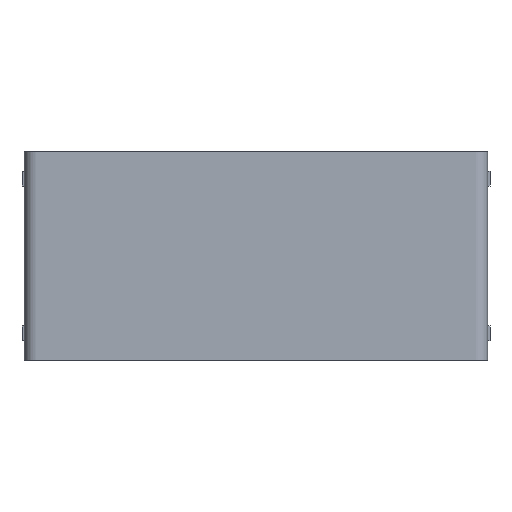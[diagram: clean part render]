
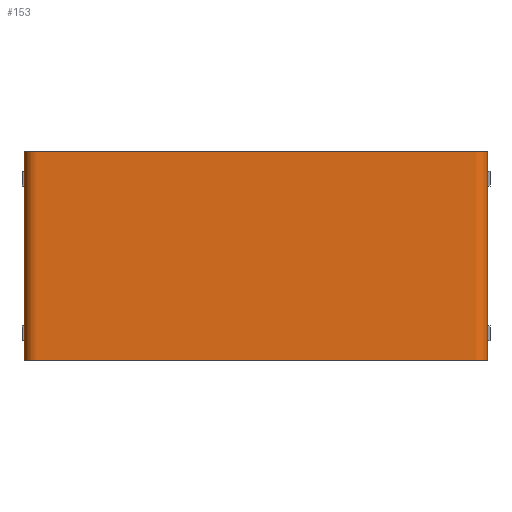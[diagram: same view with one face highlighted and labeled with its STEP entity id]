
A CAD part, top view. The second image highlights one B-rep face of the part: STEP entity #153.
In plain terms, the highlighted free-form (B-spline) face has degree [2, 1] with [9, 2] control points.
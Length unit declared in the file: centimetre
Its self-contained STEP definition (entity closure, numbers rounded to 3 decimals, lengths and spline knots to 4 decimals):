
#153=ADVANCED_FACE($,(#381),#2520,.T.);
#381=FACE_OUTER_BOUND($,#609,.T.);
#609=EDGE_LOOP($,(#955,#956,#957,#958));
#955=ORIENTED_EDGE($,*,*,#1729,.T.);
#956=ORIENTED_EDGE($,*,*,#1725,.T.);
#957=ORIENTED_EDGE($,*,*,#1719,.F.);
#958=ORIENTED_EDGE($,*,*,#1721,.F.);
#1719=EDGE_CURVE($,#2116,#2117,#2617,.T.);
#1721=EDGE_CURVE($,#2118,#2116,#2910,.T.);
#1725=EDGE_CURVE($,#2122,#2117,#2912,.T.);
#1729=EDGE_CURVE($,#2118,#2122,#2623,.T.);
#2116=VERTEX_POINT($,#4153);
#2117=VERTEX_POINT($,#4154);
#2118=VERTEX_POINT($,#4155);
#2122=VERTEX_POINT($,#4159);
#2520=(
BOUNDED_SURFACE()
B_SPLINE_SURFACE(2,1,((#4109,#4110),(#4111,#4112),(#4113,#4114),(#4115,#4116),
(#4117,#4118),(#4119,#4120),(#4121,#4122),(#4123,#4124),(#4125,#4126)),.UNSPECIFIED.,
.F.,.F.,.F.)
B_SPLINE_SURFACE_WITH_KNOTS((3,2,2,2,3),(2,2),(-244.4058,-240.1646,
-145.5646,-141.3235,-129.0235),(0.,45.),.UNSPECIFIED.)
GEOMETRIC_REPRESENTATION_ITEM()
RATIONAL_B_SPLINE_SURFACE(((1.,1.),(0.707,0.707),
(1.,1.),(1.,1.),(1.,1.),(0.707,0.707),(1.,1.),(1.,
1.),(1.,1.)))
REPRESENTATION_ITEM($)
SURFACE()
);
#2617=B_SPLINE_CURVE_WITH_KNOTS($,1,(#4048,#4049),.UNSPECIFIED.,.F.,.F.,
(2,2),(0.,45.),.UNSPECIFIED.);
#2623=B_SPLINE_CURVE_WITH_KNOTS($,1,(#4100,#4101),.UNSPECIFIED.,.F.,.F.,
(2,2),(0.,45.),.UNSPECIFIED.);
#2910=(
BOUNDED_CURVE()
B_SPLINE_CURVE(2,(#4052,#4053,#4054,#4055,#4056,#4057,#4058,#4059,#4060),
.UNSPECIFIED.,.F.,.F.)
B_SPLINE_CURVE_WITH_KNOTS((3,2,2,2,3),(129.0235,141.3235,
145.5646,240.1646,244.4058),.UNSPECIFIED.)
CURVE()
GEOMETRIC_REPRESENTATION_ITEM()
RATIONAL_B_SPLINE_CURVE((1.,1.,1.,0.707,1.,1.,1.,0.707,
1.))
REPRESENTATION_ITEM($)
);
#2912=(
BOUNDED_CURVE()
B_SPLINE_CURVE(2,(#4076,#4077,#4078,#4079,#4080,#4081,#4082,#4083,#4084),
.UNSPECIFIED.,.F.,.F.)
B_SPLINE_CURVE_WITH_KNOTS((3,2,2,2,3),(129.0235,141.3235,
145.5646,240.1646,244.4058),.UNSPECIFIED.)
CURVE()
GEOMETRIC_REPRESENTATION_ITEM()
RATIONAL_B_SPLINE_CURVE((1.,1.,1.,0.707,1.,1.,1.,0.707,
1.))
REPRESENTATION_ITEM($)
);
#4048=CARTESIAN_POINT($,(1.,0.,39.3));
#4049=CARTESIAN_POINT($,(1.,45.,39.3));
#4052=CARTESIAN_POINT($,(101.,0.,27.));
#4053=CARTESIAN_POINT($,(101.,0.,33.15));
#4054=CARTESIAN_POINT($,(101.,0.,39.3));
#4055=CARTESIAN_POINT($,(101.,0.,42.));
#4056=CARTESIAN_POINT($,(98.3,0.,42.));
#4057=CARTESIAN_POINT($,(51.,0.,42.));
#4058=CARTESIAN_POINT($,(3.7,0.,42.));
#4059=CARTESIAN_POINT($,(1.,0.,42.));
#4060=CARTESIAN_POINT($,(1.,0.,39.3));
#4076=CARTESIAN_POINT($,(101.,45.,27.));
#4077=CARTESIAN_POINT($,(101.,45.,33.15));
#4078=CARTESIAN_POINT($,(101.,45.,39.3));
#4079=CARTESIAN_POINT($,(101.,45.,42.));
#4080=CARTESIAN_POINT($,(98.3,45.,42.));
#4081=CARTESIAN_POINT($,(51.,45.,42.));
#4082=CARTESIAN_POINT($,(3.7,45.,42.));
#4083=CARTESIAN_POINT($,(1.,45.,42.));
#4084=CARTESIAN_POINT($,(1.,45.,39.3));
#4100=CARTESIAN_POINT($,(101.,0.,27.));
#4101=CARTESIAN_POINT($,(101.,45.,27.));
#4109=CARTESIAN_POINT($,(1.,0.,39.3));
#4110=CARTESIAN_POINT($,(1.,45.,39.3));
#4111=CARTESIAN_POINT($,(1.,0.,42.));
#4112=CARTESIAN_POINT($,(1.,45.,42.));
#4113=CARTESIAN_POINT($,(3.7,0.,42.));
#4114=CARTESIAN_POINT($,(3.7,45.,42.));
#4115=CARTESIAN_POINT($,(51.,0.,42.));
#4116=CARTESIAN_POINT($,(51.,45.,42.));
#4117=CARTESIAN_POINT($,(98.3,0.,42.));
#4118=CARTESIAN_POINT($,(98.3,45.,42.));
#4119=CARTESIAN_POINT($,(101.,0.,42.));
#4120=CARTESIAN_POINT($,(101.,45.,42.));
#4121=CARTESIAN_POINT($,(101.,0.,39.3));
#4122=CARTESIAN_POINT($,(101.,45.,39.3));
#4123=CARTESIAN_POINT($,(101.,0.,33.15));
#4124=CARTESIAN_POINT($,(101.,45.,33.15));
#4125=CARTESIAN_POINT($,(101.,0.,27.));
#4126=CARTESIAN_POINT($,(101.,45.,27.));
#4153=CARTESIAN_POINT($,(1.,0.,39.3));
#4154=CARTESIAN_POINT($,(1.,45.,39.3));
#4155=CARTESIAN_POINT($,(101.,0.,27.));
#4159=CARTESIAN_POINT($,(101.,45.,27.));
